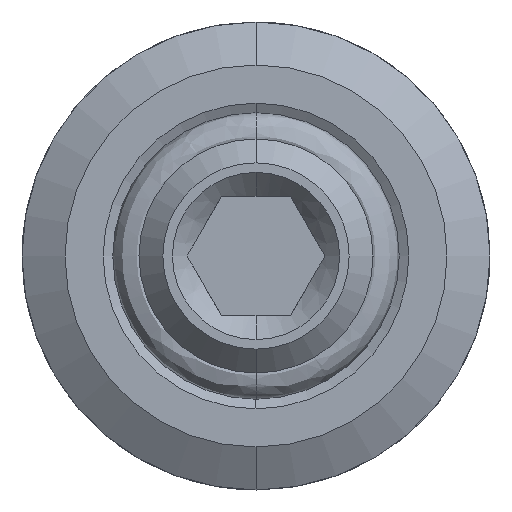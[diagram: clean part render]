
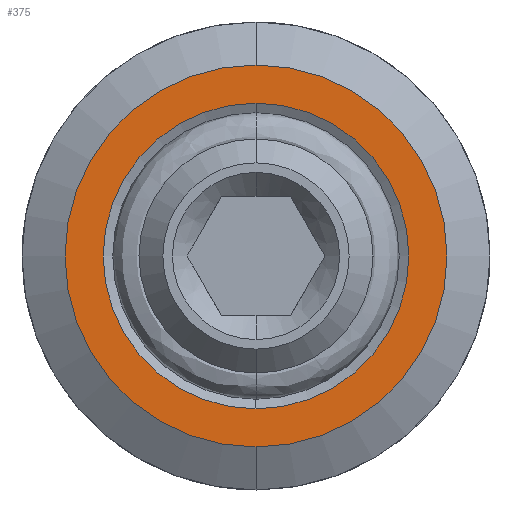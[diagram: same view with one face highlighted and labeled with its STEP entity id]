
A CAD part, front view. The second image highlights one B-rep face of the part: STEP entity #375.
In plain terms, the highlighted planar face has unit normal (0, -1, 0).
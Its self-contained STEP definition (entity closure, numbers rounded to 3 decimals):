
#95 = AXIS2_PLACEMENT_3D ( 'NONE', #10121, #10130, #10078 ) ;
#236 = CARTESIAN_POINT ( 'NONE',  ( 0., 4., 0. ) ) ;
#303 = VERTEX_POINT ( 'NONE', #3658 ) ;
#375 = ADVANCED_FACE ( 'NONE', ( #5400, #906 ), #4691, .T. ) ;
#447 = EDGE_CURVE ( 'NONE', #303, #9457, #1793, .T. ) ;
#883 = AXIS2_PLACEMENT_3D ( 'NONE', #10034, #9999, #9952 ) ;
#906 = FACE_OUTER_BOUND ( 'NONE', #1540, .T. ) ;
#1162 = DIRECTION ( 'NONE',  ( 0., 0., -1. ) ) ;
#1540 = EDGE_LOOP ( 'NONE', ( #8417, #9461 ) ) ;
#1677 = CARTESIAN_POINT ( 'NONE',  ( 0., 4., -3.2 ) ) ;
#1740 = CIRCLE ( 'NONE', #1912, 3.2 ) ;
#1793 = CIRCLE ( 'NONE', #95, 3.999 ) ;
#1912 = AXIS2_PLACEMENT_3D ( 'NONE', #236, #6805, #1162 ) ;
#2587 = CIRCLE ( 'NONE', #883, 3.999 ) ;
#3385 = CARTESIAN_POINT ( 'NONE',  ( 0., 4., 3.999 ) ) ;
#3395 = DIRECTION ( 'NONE',  ( 0., -1., 0. ) ) ;
#3658 = CARTESIAN_POINT ( 'NONE',  ( 0., 4., -3.999 ) ) ;
#3769 = CARTESIAN_POINT ( 'NONE',  ( -4.047, 4., 4.047 ) ) ;
#4177 = AXIS2_PLACEMENT_3D ( 'NONE', #8289, #8242, #8201 ) ;
#4677 = DIRECTION ( 'NONE',  ( 0., 0., -1. ) ) ;
#4691 = PLANE ( 'NONE',  #5286 ) ;
#4920 = ORIENTED_EDGE ( 'NONE', *, *, #4938, .F. ) ;
#4938 = EDGE_CURVE ( 'NONE', #5117, #9599, #5358, .T. ) ;
#5097 = ORIENTED_EDGE ( 'NONE', *, *, #12060, .F. ) ;
#5117 = VERTEX_POINT ( 'NONE', #6048 ) ;
#5286 = AXIS2_PLACEMENT_3D ( 'NONE', #3769, #3395, #4677 ) ;
#5358 = CIRCLE ( 'NONE', #4177, 3.2 ) ;
#5400 = FACE_BOUND ( 'NONE', #8570, .T. ) ;
#6048 = CARTESIAN_POINT ( 'NONE',  ( 0., 4., 3.2 ) ) ;
#6805 = DIRECTION ( 'NONE',  ( 0., -1., 0. ) ) ;
#7854 = EDGE_CURVE ( 'NONE', #9457, #303, #2587, .T. ) ;
#8201 = DIRECTION ( 'NONE',  ( 0., 0., -1. ) ) ;
#8242 = DIRECTION ( 'NONE',  ( 0., -1., 0. ) ) ;
#8289 = CARTESIAN_POINT ( 'NONE',  ( 0., 4., 0. ) ) ;
#8417 = ORIENTED_EDGE ( 'NONE', *, *, #447, .T. ) ;
#8570 = EDGE_LOOP ( 'NONE', ( #5097, #4920 ) ) ;
#9457 = VERTEX_POINT ( 'NONE', #3385 ) ;
#9461 = ORIENTED_EDGE ( 'NONE', *, *, #7854, .T. ) ;
#9599 = VERTEX_POINT ( 'NONE', #1677 ) ;
#9952 = DIRECTION ( 'NONE',  ( 0., 0., -1. ) ) ;
#9999 = DIRECTION ( 'NONE',  ( 0., -1., 0. ) ) ;
#10034 = CARTESIAN_POINT ( 'NONE',  ( 0., 4., 0. ) ) ;
#10078 = DIRECTION ( 'NONE',  ( 0., 0., -1. ) ) ;
#10121 = CARTESIAN_POINT ( 'NONE',  ( 0., 4., 0. ) ) ;
#10130 = DIRECTION ( 'NONE',  ( 0., -1., 0. ) ) ;
#12060 = EDGE_CURVE ( 'NONE', #9599, #5117, #1740, .T. ) ;
